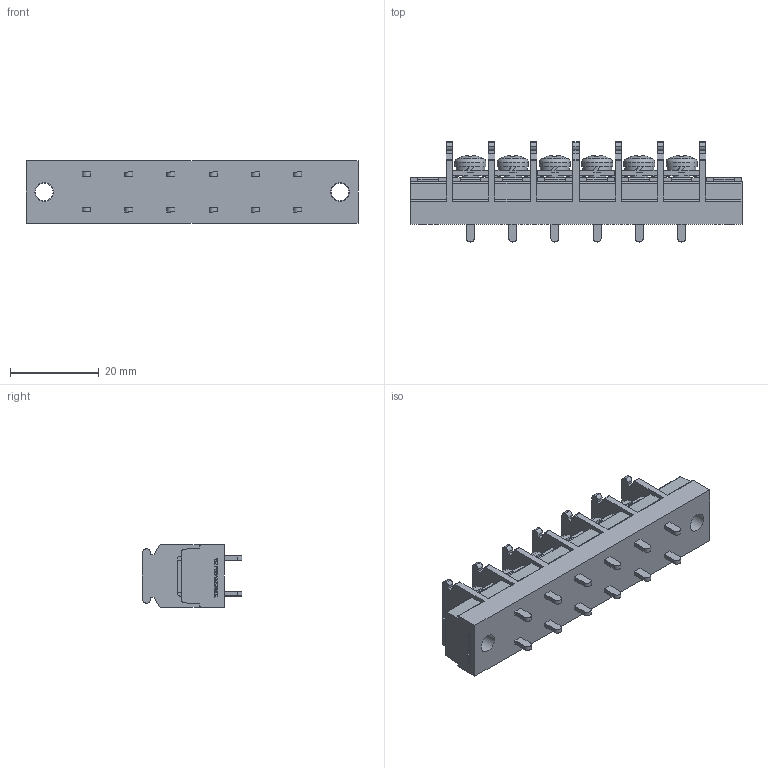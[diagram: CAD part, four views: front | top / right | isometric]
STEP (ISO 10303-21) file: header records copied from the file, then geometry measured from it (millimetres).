
FILE_DESCRIPTION(/* description */ ('Alibre Inc.'),/* implementation_level */ '2;1');
FILE_NAME(/* name */ 'export-722B3969-EC49-4530-BE80-491A13A61C71',/* time_stamp */ '2021-02-13T17:09:55+09:00',/* author */ (''),/* organization */ (''),/* preprocessor_version */ 'ST-DEVELOPER v17',/* originating_system */ 'Alibre',/* authorisation */ '');
FILE_SCHEMA (('CONFIG_CONTROL_DESIGN'));
Length unit declared in the file: millimetre
Bounding box: 74.7 x 22.5 x 14 mm (x, y, z)
Volume: 11928.4 mm3; surface area: 8116.7 mm2
Topology: 1 solids, 23 shells, 1180 faces, 3272 edges, 2156 vertices
Faces by surface type: plane 878, cylinder 150, bspline 104, cone 30, torus 12, sphere 6
Full cylindrical faces by diameter (mm): 4 x14, 4.2 x2, 7 x6
Entity records: 35877 total; most frequent: CARTESIAN_POINT 7508, ORIENTED_EDGE 6436, DIRECTION 4568, EDGE_CURVE 3218, VECTOR 2366, LINE 2366, VERTEX_POINT 2142, AXIS2_PLACEMENT_3D 1512
